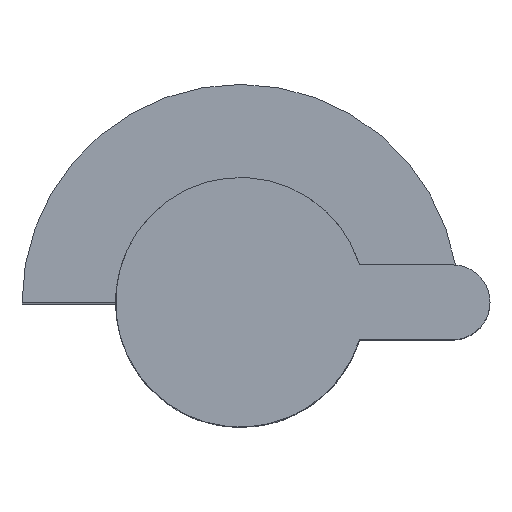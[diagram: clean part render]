
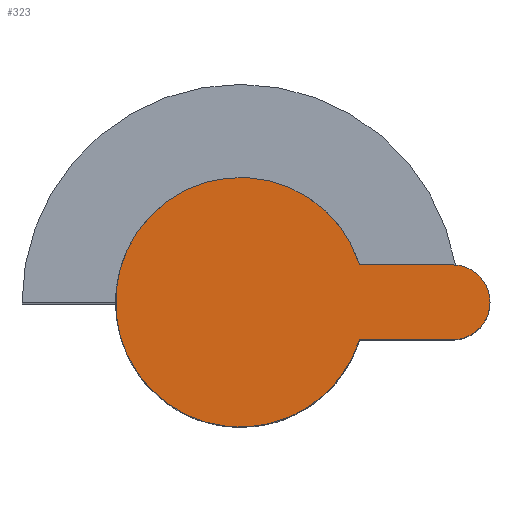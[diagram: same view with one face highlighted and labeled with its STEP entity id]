
A CAD part, top view. The second image highlights one B-rep face of the part: STEP entity #323.
In plain terms, the highlighted planar face has unit normal (0, 0, 1).
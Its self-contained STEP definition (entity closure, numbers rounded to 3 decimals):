
#323=ADVANCED_FACE('',(#447),#391,.F.);
#391=PLANE('',#1600);
#447=FACE_OUTER_BOUND('',#560,.T.);
#560=EDGE_LOOP('',(#910,#911,#912,#913));
#657=CIRCLE('',#1597,20.);
#658=CIRCLE('',#1599,6.);
#910=ORIENTED_EDGE('',*,*,#1279,.F.);
#911=ORIENTED_EDGE('',*,*,#1282,.F.);
#912=ORIENTED_EDGE('',*,*,#1283,.F.);
#913=ORIENTED_EDGE('',*,*,#1284,.F.);
#1118=VERTEX_POINT('',#2586);
#1119=VERTEX_POINT('',#2588);
#1121=VERTEX_POINT('',#2609);
#1122=VERTEX_POINT('',#2611);
#1279=EDGE_CURVE('',#1118,#1119,#657,.T.);
#1282=EDGE_CURVE('',#1121,#1118,#1387,.T.);
#1283=EDGE_CURVE('',#1122,#1121,#658,.T.);
#1284=EDGE_CURVE('',#1119,#1122,#1388,.T.);
#1387=LINE('',#2608,#1460);
#1388=LINE('',#2612,#1461);
#1460=VECTOR('',#1938,1.);
#1461=VECTOR('',#1941,1.);
#1597=AXIS2_PLACEMENT_3D('',#2587,#1933,#1934);
#1599=AXIS2_PLACEMENT_3D('',#2610,#1939,#1940);
#1600=AXIS2_PLACEMENT_3D('',#2613,#1942,#1943);
#1933=DIRECTION('',(0.,0.,-1.));
#1934=DIRECTION('',(-1.,0.,0.));
#1938=DIRECTION('',(-1.,0.,0.));
#1939=DIRECTION('',(0.,0.,-1.));
#1940=DIRECTION('',(-1.,0.,0.));
#1941=DIRECTION('',(1.,0.,0.));
#1942=DIRECTION('',(0.,0.,-1.));
#1943=DIRECTION('',(-1.,0.,0.));
#2586=CARTESIAN_POINT('',(19.079,-6.,35.));
#2587=CARTESIAN_POINT('',(0.,0.,35.));
#2588=CARTESIAN_POINT('',(19.079,6.,35.));
#2608=CARTESIAN_POINT('',(34.,-6.,35.));
#2609=CARTESIAN_POINT('',(34.,-6.,35.));
#2610=CARTESIAN_POINT('',(34.,0.,35.));
#2611=CARTESIAN_POINT('',(34.,6.,35.));
#2612=CARTESIAN_POINT('',(0.,6.,35.));
#2613=CARTESIAN_POINT('',(0.,0.,35.));
